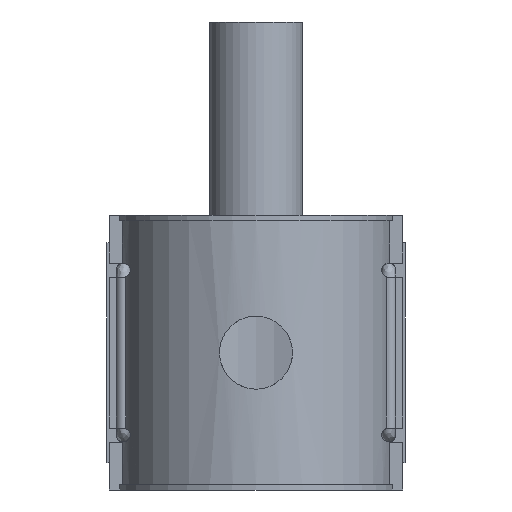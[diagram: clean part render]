
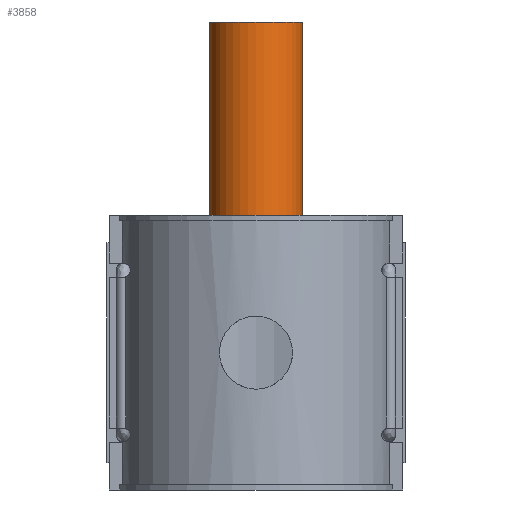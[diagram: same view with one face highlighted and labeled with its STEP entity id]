
A CAD part, front view. The second image highlights one B-rep face of the part: STEP entity #3858.
In plain terms, the highlighted cylindrical face has radius 20 mm (diameter 40 mm), a full revolution.
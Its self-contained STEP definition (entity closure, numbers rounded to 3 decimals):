
#340=CIRCLE('',#4223,20.);
#341=CIRCLE('',#4224,20.);
#342=CIRCLE('',#4225,20.);
#343=CIRCLE('',#4226,20.);
#583=FACE_OUTER_BOUND('',#826,.T.);
#826=EDGE_LOOP('',(#3572,#3573,#3574,#3575,#3576,#3577));
#1151=LINE('',#8058,#1472);
#1472=VECTOR('',#5237,20.);
#1907=VERTEX_POINT('',#8053);
#1908=VERTEX_POINT('',#8054);
#1909=VERTEX_POINT('',#8057);
#1910=VERTEX_POINT('',#8059);
#2464=EDGE_CURVE('',#1907,#1908,#340,.T.);
#2465=EDGE_CURVE('',#1908,#1907,#341,.T.);
#2466=EDGE_CURVE('',#1908,#1909,#1151,.T.);
#2467=EDGE_CURVE('',#1909,#1910,#342,.T.);
#2468=EDGE_CURVE('',#1910,#1909,#343,.T.);
#3572=ORIENTED_EDGE('',*,*,#2464,.F.);
#3573=ORIENTED_EDGE('',*,*,#2465,.F.);
#3574=ORIENTED_EDGE('',*,*,#2466,.T.);
#3575=ORIENTED_EDGE('',*,*,#2467,.T.);
#3576=ORIENTED_EDGE('',*,*,#2468,.T.);
#3577=ORIENTED_EDGE('',*,*,#2466,.F.);
#3642=CYLINDRICAL_SURFACE('',#4222,20.);
#3858=ADVANCED_FACE('',(#583),#3642,.T.);
#4222=AXIS2_PLACEMENT_3D('',#8052,#5231,#5232);
#4223=AXIS2_PLACEMENT_3D('',#8055,#5233,#5234);
#4224=AXIS2_PLACEMENT_3D('',#8056,#5235,#5236);
#4225=AXIS2_PLACEMENT_3D('',#8060,#5238,#5239);
#4226=AXIS2_PLACEMENT_3D('',#8061,#5240,#5241);
#5231=DIRECTION('center_axis',(0.,0.,1.));
#5232=DIRECTION('ref_axis',(0.,-1.,0.));
#5233=DIRECTION('center_axis',(0.,0.,1.));
#5234=DIRECTION('ref_axis',(1.,0.,0.));
#5235=DIRECTION('center_axis',(0.,0.,1.));
#5236=DIRECTION('ref_axis',(1.,0.,0.));
#5237=DIRECTION('',(0.,0.,-1.));
#5238=DIRECTION('center_axis',(0.,0.,1.));
#5239=DIRECTION('ref_axis',(1.,0.,0.));
#5240=DIRECTION('center_axis',(0.,0.,1.));
#5241=DIRECTION('ref_axis',(1.,0.,0.));
#8052=CARTESIAN_POINT('Origin',(0.,105.,71.));
#8053=CARTESIAN_POINT('',(0.,85.,142.));
#8054=CARTESIAN_POINT('',(0.,125.,142.));
#8055=CARTESIAN_POINT('Origin',(0.,105.,142.));
#8056=CARTESIAN_POINT('Origin',(0.,105.,142.));
#8057=CARTESIAN_POINT('',(0.,125.,0.));
#8058=CARTESIAN_POINT('',(0.,125.,71.));
#8059=CARTESIAN_POINT('',(0.,85.,0.));
#8060=CARTESIAN_POINT('Origin',(0.,105.,0.));
#8061=CARTESIAN_POINT('Origin',(0.,105.,0.));
